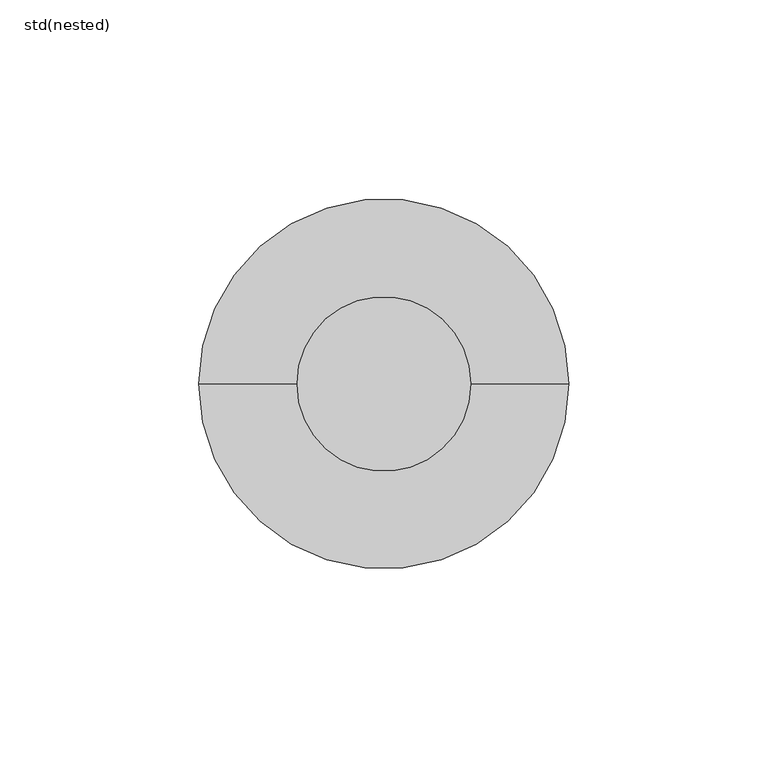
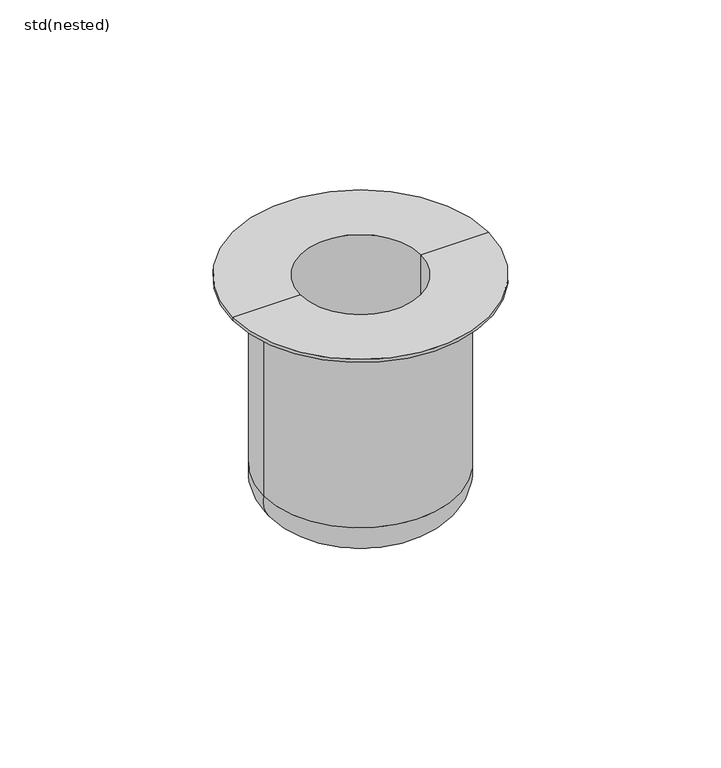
"""IFC4 building model written with IfcOpenShell, lengths in millimetres: sanitary terminal geometry, ZZZ_do_not_use_PF_UN_foul air trap_ACO : std(nested)."""

from ifc_helpers import new_model, si_unit, point, frame, origin, origin_with_axes, place, context, project, spatial, polyline, circle_curve, ellipse_curve, trimmed, source, transform, mapped, element, save
from ifc_brep_helpers import plane_surface, cylinder_surface, revolved_surface, advanced_brep


def std_nested_a4f35663(model_context):
    return source(origin(), model_context, "Body", "AdvancedBrep", [
        advanced_brep(
        [(46.5, 0.0, 0.0), (-46.5, 0.0, 0.0), (-21.9735909, 0.0, 0.0), (21.9735909, 0.0, 0.0), (-30.1394353, 0.0, -84.0), (30.1394353, 0.0, -84.0), (0.0, 0.0, -84.0), (-35.2620423, 0.0, -7.22682), (35.2620423, 0.0, -7.22682), (35.2620423, 0.0, -72.5692755), (-35.2620423, 0.0, -72.5692755), (-32.5551826, 0.0, -7.22682), (32.5551826, 0.0, -7.22682), (-32.5551826, 0.0, -5.2434154), (32.5551826, 0.0, -5.2434154), (-21.9735909, 0.0, -72.5692755), (21.9735909, 0.0, -72.5692755), (-46.5, 0.0, -1.1869593), (46.5, 0.0, -1.1869593)],
        [
            (0, 1, circle_curve(origin_with_axes(), 46.5)),
            (1, 2),
            (2, 3, circle_curve(frame((0.0, 0.0, 0.0), z_axis=(0.0, 0.0, -1.0), x_axis=(1.0, 0.0, 0.0)), 21.9735909)),
            (3, 0),
            (1, 0, circle_curve(origin_with_axes(), 46.5)),
            (3, 2, circle_curve(frame((0.0, 0.0, 0.0), z_axis=(0.0, 0.0, -1.0), x_axis=(1.0, 0.0, 0.0)), 21.9735909)),
            (4, 5, circle_curve(frame((0.0, 0.0, -84.0), z_axis=(0.0, 0.0, -1.0), x_axis=(1.0, 0.0, 0.0)), 30.1394353)),
            (5, 6),
            (6, 4),
            (5, 4, circle_curve(frame((0.0, 0.0, -84.0), z_axis=(0.0, 0.0, -1.0), x_axis=(1.0, 0.0, 0.0)), 30.1394353)),
            (7, 8, circle_curve(frame((0.0, 0.0, -7.22682), z_axis=(0.0, 0.0, -1.0), x_axis=(1.0, 0.0, 0.0)), 35.2620423)),
            (8, 9),
            (9, 10, circle_curve(frame((0.0, 0.0, -72.5692755), z_axis=(0.0, 0.0, 1.0), x_axis=(1.0, 0.0, 0.0)), 35.2620423)),
            (10, 7),
            (8, 7, circle_curve(frame((0.0, 0.0, -7.22682), z_axis=(0.0, 0.0, -1.0), x_axis=(1.0, 0.0, 0.0)), 35.2620423)),
            (10, 9, circle_curve(frame((0.0, 0.0, -72.5692755), z_axis=(0.0, 0.0, 1.0), x_axis=(1.0, 0.0, 0.0)), 35.2620423)),
            (7, 11),
            (11, 12, circle_curve(frame((0.0, 0.0, -7.22682), z_axis=(0.0, 0.0, -1.0), x_axis=(1.0, 0.0, 0.0)), 32.5551826)),
            (12, 8),
            (12, 11, circle_curve(frame((0.0, 0.0, -7.22682), z_axis=(0.0, 0.0, -1.0), x_axis=(1.0, 0.0, 0.0)), 32.5551826)),
            (11, 13),
            (13, 14, circle_curve(frame((0.0, 0.0, -5.2434154), z_axis=(0.0, 0.0, -1.0), x_axis=(1.0, 0.0, 0.0)), 32.5551826)),
            (14, 12),
            (14, 13, circle_curve(frame((0.0, 0.0, -5.2434154), z_axis=(0.0, 0.0, -1.0), x_axis=(1.0, 0.0, 0.0)), 32.5551826)),
            (4, 10, circle_curve(frame((-24.5406931, 0.0, -74.6277648), z_axis=(0.0, 1.0, 0.0), x_axis=(-1.0, 0.0, 0.0)), 10.9171749)),
            (9, 5, circle_curve(frame((24.5406931, 0.0, -74.6277648), z_axis=(0.0, 1.0, 0.0), x_axis=(1.0, 0.0, 0.0)), 10.9171749)),
            (15, 16, circle_curve(frame((0.0, 0.0, -72.5692755), z_axis=(0.0, 0.0, 1.0), x_axis=(1.0, 0.0, 0.0)), 21.9735909)),
            (16, 15, circle_curve(frame((0.0, 0.0, -72.5692755), z_axis=(0.0, 0.0, 1.0), x_axis=(1.0, 0.0, 0.0)), 21.9735909)),
            (15, 2),
            (3, 16),
            (13, 17),
            (17, 18, circle_curve(frame((0.0, 0.0, -1.1869593), z_axis=(0.0, 0.0, -1.0), x_axis=(1.0, 0.0, 0.0)), 46.5)),
            (18, 14),
            (18, 17, circle_curve(frame((0.0, 0.0, -1.1869593), z_axis=(0.0, 0.0, -1.0), x_axis=(1.0, 0.0, 0.0)), 46.5)),
            (0, 18),
            (17, 1),
        ],
        [
            plane_surface(origin_with_axes()),
            plane_surface(frame((0.0, 0.0, -84.0), z_axis=(0.0, 0.0, -1.0), x_axis=(1.0, 0.0, 0.0))),
            cylinder_surface(origin_with_axes(), 35.2620423),
            plane_surface(frame((0.0, 0.0, -7.22682), z_axis=(0.0, 0.0, 1.0), x_axis=(1.0, 0.0, 0.0))),
            cylinder_surface(origin_with_axes(), 32.5551826),
            revolved_surface(trimmed(ellipse_curve(frame((24.5406931, 0.0, -74.6277648), z_axis=(0.0, -1.0, 0.0), x_axis=(1.0, 0.0, 0.0)), 10.9171749, 10.9171749), [point((30.1394353, 0.0, -84.0))], [point((35.2620423, 0.0, -72.5692755))], True, "CARTESIAN"), (0.0, 0.0, 0.0), (0.0, 0.0, 1.0)),
            plane_surface(frame((21.9735909, 0.0, -72.5692755), z_axis=(0.0, 0.0, 1.0), x_axis=(0.0, -1.0, 0.0))),
            revolved_surface(polyline([(21.9735909, 0.0, 0.0), (21.9735909, 0.0, -72.5692755)]), (0.0, 0.0, -72.5692755), (0.0, 0.0, 1.0)),
            revolved_surface(polyline([(32.5551826, 0.0, -5.2434154), (46.5, 0.0, -1.1869593)]), (0.0, 0.0, 0.0), (0.0, 0.0, 1.0)),
            cylinder_surface(origin_with_axes(), 46.5),
        ],
        [
            (0, [[1, 2, 3, 4]]),
            (0, [[5, -4, 6, -2]]),
            (1, [[7, 8, 9]]),
            (1, [[-8, 10, -9]]),
            (2, [[11, 12, 13, 14]]),
            (2, [[-12, 15, -14, 16]]),
            (3, [[-11, 17, 18, 19]]),
            (3, [[-15, -19, 20, -17]]),
            (4, [[-18, 21, 22, 23]]),
            (4, [[-20, -23, 24, -21]]),
            (5, [[-7, 25, -13, 26]]),
            (5, [[-10, -26, -16, -25]]),
            (6, [[27, 28]]),
            (7, [[-27, 29, -6, 30]]),
            (7, [[-28, -30, -3, -29]]),
            (8, [[-22, 31, 32, 33]]),
            (8, [[-24, -33, 34, -31]]),
            (9, [[-1, 35, -32, 36]]),
            (9, [[-5, -36, -34, -35]]),
        ],
    ),
    ])


if __name__ == "__main__":
    model = new_model("IFC4")
    model_context = context("Model", 3, world=origin())
    ifc_project = project(units=[si_unit("LENGTHUNIT", "METRE", prefix="MILLI")], contexts=[model_context])
    site = spatial("IfcSite", under=ifc_project)
    building = spatial("IfcBuilding", under=site)
    placement = place(None, origin())
    std_nested_shape = std_nested_a4f35663(model_context)
    element("IfcSanitaryTerminal", 1, ObjectType="ZZZ_do_not_use_PF_UN_foul air trap_ACO : std(nested)", at=placement, inside=building, context=model_context, shape_type="MappedRepresentation", body=[
        mapped(std_nested_shape, transform((0.0, 0.0, 0.0), x_axis=(1.0, 0.0, 0.0), y_axis=(0.0, 1.0, 0.0), z_axis=(0.0, 0.0, 1.0))),
    ])
    save(model, "model.ifc")
